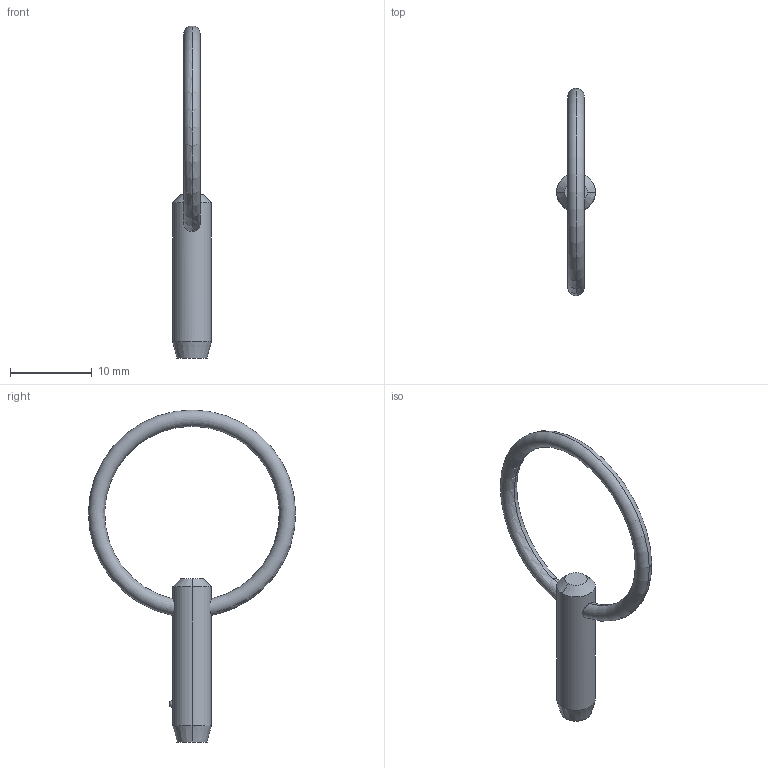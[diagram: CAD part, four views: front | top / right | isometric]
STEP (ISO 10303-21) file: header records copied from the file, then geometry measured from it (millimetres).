
FILE_DESCRIPTION (( 'STEP AP203' ), '1' );
FILE_NAME ('P1250.018-040.step', '2019-07-29T19:29:16', ( '' ), ( '' ), 'SwSTEP 2.0', 'SolidWorks 2017', '' );
FILE_SCHEMA (( 'CONFIG_CONTROL_DESIGN' ));
Length unit declared in the file: millimetre
Products named in the file (1): P1250.018-040
Bounding box: 4.76 x 25.4 x 40.68 mm (x, y, z)
Volume: 558.8 mm3; surface area: 742.6 mm2
Topology: 1 solids, 1 shells, 12 faces, 28 edges, 17 vertices
Faces by surface type: cone 4, torus 2, sphere 2, cylinder 2, plane 2
Entity records: 471 total; most frequent: CARTESIAN_POINT 138, DIRECTION 56, ORIENTED_EDGE 48, AXIS2_PLACEMENT_3D 25, EDGE_CURVE 24, EDGE_LOOP 15, VERTEX_POINT 15, CIRCLE 12
